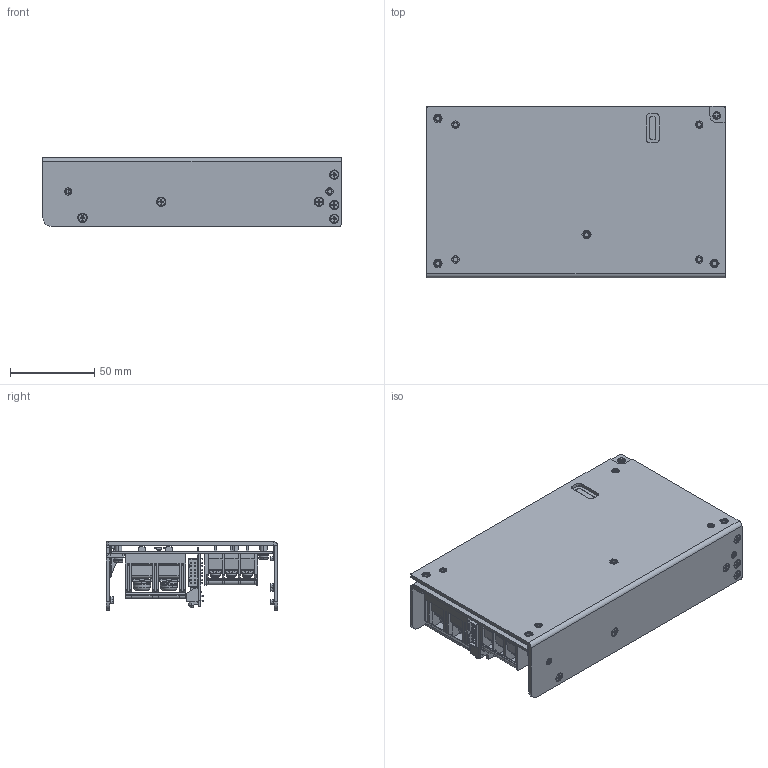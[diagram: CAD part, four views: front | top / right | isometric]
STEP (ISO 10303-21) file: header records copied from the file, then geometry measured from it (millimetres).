
FILE_DESCRIPTION((''),'2;1');
FILE_NAME('MEDICAL_400W_MAR132017_ASM','2017-03-13T',('Steven.Che'),(''),'PRO/ENGINEER BY PARAMETRIC TECHNOLOGY CORPORATION, 2012480','PRO/ENGINEER BY PARAMETRIC TECHNOLOGY CORPORATION, 2012480','');
FILE_SCHEMA(('AUTOMOTIVE_DESIGN { 1 0 10303 214 1 1 1 1 }'));
Products named in the file (64): CHASSIS_1_76_24_1_1; PEM_SO_M3_6_6_24_1_1; PEM_F_M3_1_3_24_1_1; CHASSIS_ASS_ASM_49_ASM_24_ASM_1_ASM; PWB_62_43_1_1; MANIFOLD_SOLID_BREP_28478_43_1_; MANIFOLD_SOLID_BREP_31620_43_1_; OUTPUT_CONN_10_ASM_43_ASM_1_ASM_ASM; CONTROL_B_1_29_49_1_1; MANIFOLD_SOLID_BREP_43619_49_1_; MANIFOLD_SOLID_BREP_44500_49_1_; MANIFOLD_SOLID_BREP_45381_49_1_; MANIFOLD_SOLID_BREP_46262_49_1_; MANIFOLD_SOLID_BREP_47143_49_1_; MANIFOLD_SOLID_BREP_48024_49_1_; MANIFOLD_SOLID_BREP_48905_49_1_; MANIFOLD_SOLID_BREP_49786_49_1_; MANIFOLD_SOLID_BREP_50667_49_1_; MANIFOLD_SOLID_BREP_51548_49_1_; F-PIN-10_1_ASM_49_ASM_1_ASM_1_ASM; MANIFOLD_SOLID_BREP_52541_49_1_; MANIFOLD_SOLID_BREP_53422_49_1_; MANIFOLD_SOLID_BREP_54303_49_1_; MANIFOLD_SOLID_BREP_55184_49_1_; MANIFOLD_SOLID_BREP_56065_49_1_; F-PIN-5_3_ASM_49_ASM_1_ASM_1_ASM; LED-3Y_1_49_1_1; LED5GREEN_3_49_1_1; LED_ASSEMBLY_1_ASM_3_ASM_49_ASM_ASM; A2005WR0_2CX7P_4_49_1_1; VR_3296P_8_49_1_1; 559591430_ASM_3_ASM_1_ASM_1_ASM; CONTROL_B_ASS_ASM_53_ASM_49_ASM_ASM; SEC_HSK_1_46_51_1_1; WAN-074_13_69_1_1; SEC_HSK_ASS_1_ASM_32_ASM_51_ASM_ASM; HSK_2_ASS_ASM_34_ASM_51_ASM_1_A_ASM; OUTPUTCHOKE1_3_ASM_43_ASM_1_1; 1_1_43_1_1; 2_9_43_1_1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
Assembly tree (89 placements, depth 8):
  MEDICAL_400W_MAR132017_ASM
    MEDICAL_600W_MAR132017_ASM_1_ASM
      MEDICAL_400W_600W_MAR132017_ASM_ASM
        MED600ST_ASM_131_ASM_29_ASM_1_A_ASM
          CHASSIS_ASS_ASM_49_ASM_24_ASM_1_ASM
            CHASSIS_1_76_24_1_1
            PEM_SO_M3_6_6_24_1_1  x4
            PEM_F_M3_1_3_24_1_1  x6
          PWB_MAIN_ASS_ASM_128_ASM_58_ASM_ASM
            PWB_62_43_1_1
            OUTPUT_CONN_10_ASM_43_ASM_1_ASM_ASM
              MANIFOLD_SOLID_BREP_28478_43_1_
              MANIFOLD_SOLID_BREP_31620_43_1_
            CONTROL_B_ASS_ASM_53_ASM_49_ASM_ASM
              CONTROL_B_1_29_49_1_1
              F-PIN-10_1_ASM_49_ASM_1_ASM_1_ASM  x2
                MANIFOLD_SOLID_BREP_43619_49_1_
                MANIFOLD_SOLID_BREP_44500_49_1_
                MANIFOLD_SOLID_BREP_45381_49_1_
                MANIFOLD_SOLID_BREP_46262_49_1_
                MANIFOLD_SOLID_BREP_47143_49_1_
                MANIFOLD_SOLID_BREP_48024_49_1_
                MANIFOLD_SOLID_BREP_48905_49_1_
                MANIFOLD_SOLID_BREP_49786_49_1_
                MANIFOLD_SOLID_BREP_50667_49_1_
                MANIFOLD_SOLID_BREP_51548_49_1_
              F-PIN-5_3_ASM_49_ASM_1_ASM_1_ASM
                MANIFOLD_SOLID_BREP_52541_49_1_
                MANIFOLD_SOLID_BREP_53422_49_1_
                MANIFOLD_SOLID_BREP_54303_49_1_
                MANIFOLD_SOLID_BREP_55184_49_1_
                MANIFOLD_SOLID_BREP_56065_49_1_
              LED_ASSEMBLY_1_ASM_3_ASM_49_ASM_ASM
                LED-3Y_1_49_1_1
                LED5GREEN_3_49_1_1
              A2005WR0_2CX7P_4_49_1_1
              VR_3296P_8_49_1_1
              559591430_ASM_3_ASM_1_ASM_1_ASM
            HSK_2_ASS_ASM_34_ASM_51_ASM_1_A_ASM
              SEC_HSK_ASS_1_ASM_32_ASM_51_ASM_ASM
                SEC_HSK_1_46_51_1_1
                WAN-074_13_69_1_1  x2
            OUTPUTCHOKE1_3_ASM_43_ASM_1_1
            T14-EM1103_ASM_3_ASM_43_ASM_1_A_ASM
              1_1_43_1_1
              2_9_43_1_1
              4_1_43_1_1
              3_1_43_1_1
            SHIELD_WITH_INSULATOR_ASM_3_ASM_ASM
              SHIELD_ASS_ASM_10_ASM_45_ASM_1_
            PQI2620-0702_ASM_ASM_1_ASM_43_A
            SHIELD_PCB_ASSY_ASM_8_ASM_43_AS_ASM
              SHIELD_TOP_43_1_1
              SHIELD_BOT_43_1_1
              ASP-182103-02_5_43_1_1
          M3_PAN_S_P_1_24_1_1  x3
          SCREW_DIN965_M2_5_04_1_1_24_1_1  x10
          CHASSIS_INSULATOR_1_27_24_1_1
          3105304500_3_24_1_1
          3100300800_L8_1_24_1_1
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Bounding box: 176.8 x 101.8 x 40.6 mm (x, y, z)
Volume: 117746.7 mm3; surface area: 166840.4 mm2
Topology: 70 solids, 83 shells, 2856 faces, 7546 edges, 4852 vertices
Faces by surface type: plane 1873, cylinder 649, cone 184, bspline 108, torus 28, extrusion 12, sphere 2
Entity records: 81995 total; most frequent: CARTESIAN_POINT 13934, DIRECTION 10417, ORIENTED_EDGE 10409, EDGE_CURVE 5215, VECTOR 3789, LINE 3777, VERTEX_POINT 3462, AXIS2_PLACEMENT_3D 3314
